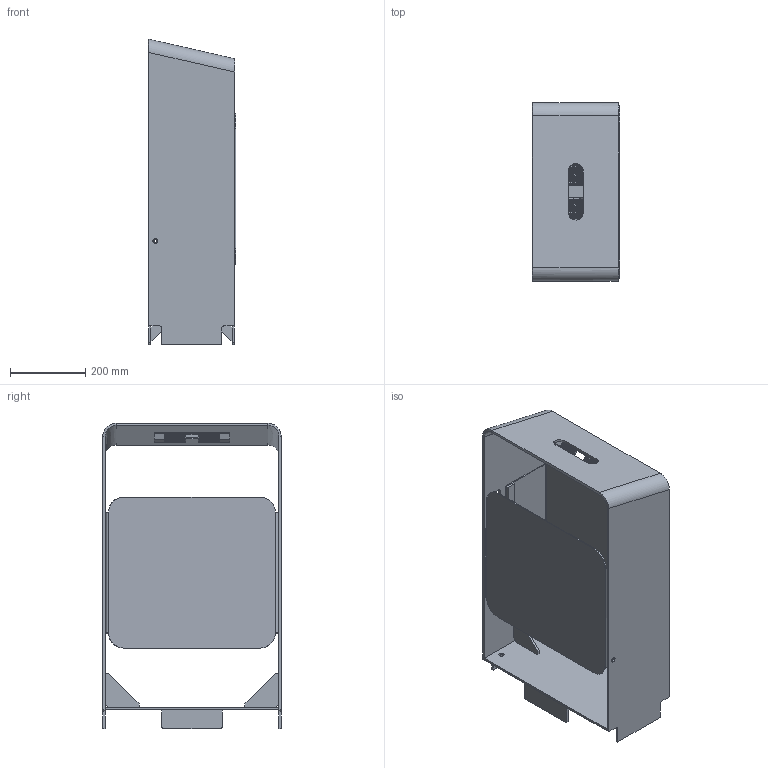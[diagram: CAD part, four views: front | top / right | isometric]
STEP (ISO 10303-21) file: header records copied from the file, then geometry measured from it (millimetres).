
FILE_DESCRIPTION(('STEP AP214'), '1');
FILE_NAME('óðíà â ñáîðå', '', ('UNSPECIFIED'), ('UNSPECIFIED'), 'C3D Converter', 'C3D Toolkit', '');
FILE_SCHEMA(('AUTOMOTIVE_DESIGN { 1 0 10303 214 3 1 1}'));
Length unit declared in the file: millimetre
Products named in the file (13): 01; 02; 03; 04; 05; 06; 07; 08; 09; 001,011
Assembly tree (18 placements, depth 2):
  (unnamed)
    01
    02
    03
    04
    05  x2
    06
    07  x2
    08  x2
    09  x2
    (unnamed)  x2
    (unnamed)  x2
    001,011
Bounding box: 232.33 x 473 x 810 mm (x, y, z)
Volume: 5370999.9 mm3; surface area: 2493930.5 mm2
Topology: 18 solids, 18 shells, 649 faces, 1713 edges, 1064 vertices
Faces by surface type: cylinder 327, plane 294, bspline 26, cone 2
Full cylindrical faces by diameter (mm): 3.5 x6, 3.8 x198, 6 x4, 6.5 x4, 9.8 x2, 10 x2, 14 x4, 14.8 x2, 60.2 x1
Entity records: 28627 total; most frequent: CARTESIAN_POINT 8400, DIRECTION 3002, ORIENTED_EDGE 2664, EDGE_CURVE 1332, EDGE_LOOP 1224, AXIS2_PLACEMENT_3D 1183, VERTEX_POINT 960, FACE_BOUND 790
